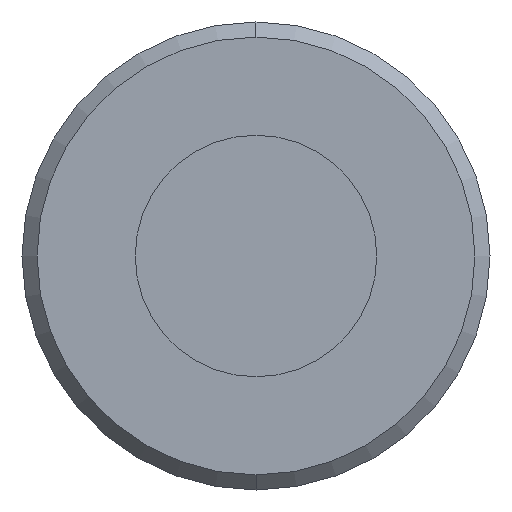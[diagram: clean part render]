
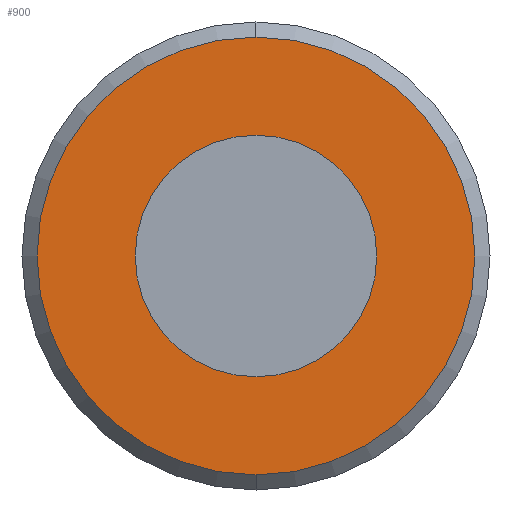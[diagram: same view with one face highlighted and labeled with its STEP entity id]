
A CAD part, left-side view. The second image highlights one B-rep face of the part: STEP entity #900.
In plain terms, the highlighted planar face has unit normal (-1, 0, 0).
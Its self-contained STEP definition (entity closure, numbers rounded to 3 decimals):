
#3 = EDGE_CURVE ( 'NONE', #836, #216, #666, .T. ) ;
#44 = AXIS2_PLACEMENT_3D ( 'NONE', #726, #232, #801 ) ;
#56 = CARTESIAN_POINT ( 'NONE',  ( 61.5, 0., 14.5 ) ) ;
#60 = FACE_OUTER_BOUND ( 'NONE', #955, .T. ) ;
#78 = EDGE_CURVE ( 'NONE', #611, #1006, #862, .T. ) ;
#80 = ORIENTED_EDGE ( 'NONE', *, *, #78, .T. ) ;
#95 = CIRCLE ( 'NONE', #655, 14.5 ) ;
#216 = VERTEX_POINT ( 'NONE', #491 ) ;
#232 = DIRECTION ( 'NONE',  ( 1., 0., 0. ) ) ;
#240 = CARTESIAN_POINT ( 'NONE',  ( 61.5, 0., 0. ) ) ;
#245 = AXIS2_PLACEMENT_3D ( 'NONE', #240, #809, #324 ) ;
#294 = CARTESIAN_POINT ( 'NONE',  ( 61.5, 0., 0. ) ) ;
#324 = DIRECTION ( 'NONE',  ( 0., 0., -1. ) ) ;
#362 = DIRECTION ( 'NONE',  ( 1., 0., 0. ) ) ;
#378 = ORIENTED_EDGE ( 'NONE', *, *, #3, .F. ) ;
#381 = DIRECTION ( 'NONE',  ( 0., 0., -1. ) ) ;
#449 = PLANE ( 'NONE',  #928 ) ;
#491 = CARTESIAN_POINT ( 'NONE',  ( 61.5, 0., -14.5 ) ) ;
#533 = CARTESIAN_POINT ( 'NONE',  ( 61.5, 8., 0. ) ) ;
#607 = AXIS2_PLACEMENT_3D ( 'NONE', #294, #854, #381 ) ;
#608 = DIRECTION ( 'NONE',  ( 0., 0., 1. ) ) ;
#611 = VERTEX_POINT ( 'NONE', #814 ) ;
#655 = AXIS2_PLACEMENT_3D ( 'NONE', #702, #362, #919 ) ;
#666 = CIRCLE ( 'NONE', #44, 14.5 ) ;
#689 = EDGE_LOOP ( 'NONE', ( #80, #802 ) ) ;
#702 = CARTESIAN_POINT ( 'NONE',  ( 61.5, 0., 0. ) ) ;
#709 = ORIENTED_EDGE ( 'NONE', *, *, #865, .F. ) ;
#726 = CARTESIAN_POINT ( 'NONE',  ( 61.5, 0., 0. ) ) ;
#742 = CIRCLE ( 'NONE', #607, 8. ) ;
#770 = DIRECTION ( 'NONE',  ( -1., 0., 0. ) ) ;
#801 = DIRECTION ( 'NONE',  ( 0., 0., -1. ) ) ;
#802 = ORIENTED_EDGE ( 'NONE', *, *, #833, .T. ) ;
#809 = DIRECTION ( 'NONE',  ( 1., 0., 0. ) ) ;
#814 = CARTESIAN_POINT ( 'NONE',  ( 61.5, 0., -8. ) ) ;
#833 = EDGE_CURVE ( 'NONE', #1006, #611, #742, .T. ) ;
#836 = VERTEX_POINT ( 'NONE', #56 ) ;
#854 = DIRECTION ( 'NONE',  ( 1., 0., 0. ) ) ;
#862 = CIRCLE ( 'NONE', #245, 8. ) ;
#865 = EDGE_CURVE ( 'NONE', #216, #836, #95, .T. ) ;
#900 = ADVANCED_FACE ( 'NONE', ( #909, #60 ), #449, .T. ) ;
#909 = FACE_BOUND ( 'NONE', #689, .T. ) ;
#919 = DIRECTION ( 'NONE',  ( 0., 0., -1. ) ) ;
#928 = AXIS2_PLACEMENT_3D ( 'NONE', #533, #770, #608 ) ;
#936 = CARTESIAN_POINT ( 'NONE',  ( 61.5, 0., 8. ) ) ;
#955 = EDGE_LOOP ( 'NONE', ( #709, #378 ) ) ;
#1006 = VERTEX_POINT ( 'NONE', #936 ) ;
